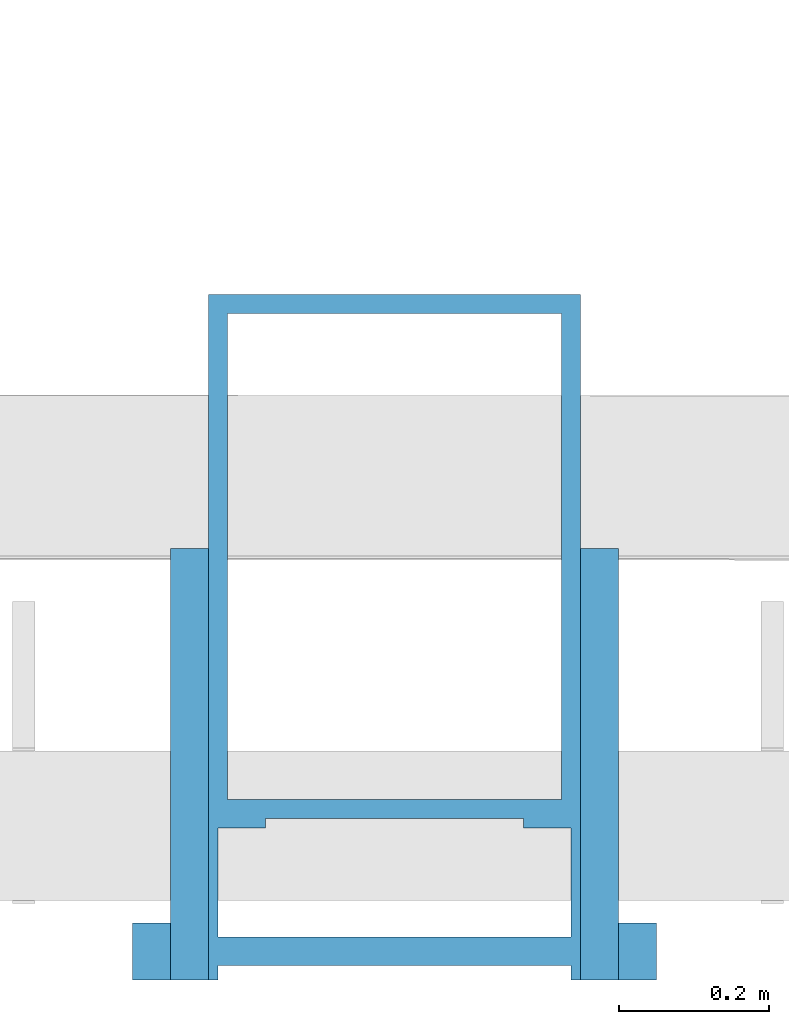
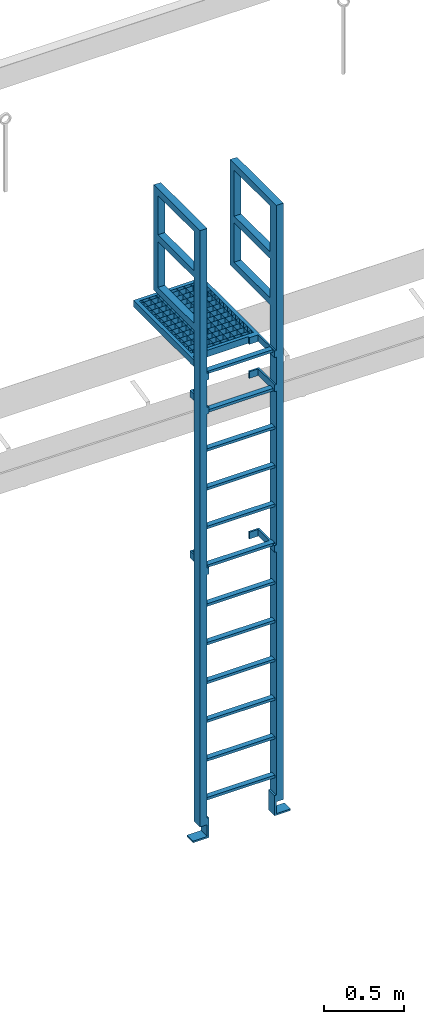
# One storey, part 4 of 7: 1 beam.
"""IFC4 building model written with IfcOpenShell, lengths in millimetres."""

from ifc_helpers import new_model, entity, si_unit, converted_unit, derived_unit, direction, frame, origin_with_axes, place, context, subcontext, project, spatial, polygons, type_object, element, save


model = new_model("IFC4")

# Units and contexts
model_context = context("Model", 3, precision=0.01, world=origin_with_axes(), true_north=direction((0.0, 1.0)))
body_context = subcontext(model_context, "Body", "Model", "MODEL_VIEW")
ifc_project = project(units=[si_unit("LENGTHUNIT", "METRE", prefix="MILLI"), si_unit("AREAUNIT", "SQUARE_METRE"), si_unit("VOLUMEUNIT", "CUBIC_METRE"), converted_unit("PLANEANGLEUNIT", "DEGREE", entity("IfcPlaneAngleMeasure", 0.0174532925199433), si_unit("PLANEANGLEUNIT", "RADIAN"), dimensions=[0, 0, 0, 0, 0, 0, 0]), converted_unit("TIMEUNIT", "Year", entity("IfcTimeMeasure", 31557600.0), si_unit("TIMEUNIT", "SECOND"), dimensions=[0, 0, 1, 0, 0, 0, 0]), si_unit("MASSUNIT", "GRAM", prefix="KILO"), si_unit("THERMODYNAMICTEMPERATUREUNIT", "DEGREE_CELSIUS"), si_unit("LUMINOUSINTENSITYUNIT", "LUMEN"), si_unit("ENERGYUNIT", "JOULE", prefix="MEGA"), derived_unit("THERMALCONDUCTANCEUNIT", [(si_unit("POWERUNIT", "WATT"), 1), (si_unit("LENGTHUNIT", "METRE"), -1), (si_unit("THERMODYNAMICTEMPERATUREUNIT", "KELVIN"), -1)]), derived_unit("SPECIFICHEATCAPACITYUNIT", [(si_unit("ENERGYUNIT", "JOULE"), 1), (si_unit("MASSUNIT", "GRAM", prefix="KILO"), -1), (si_unit("THERMODYNAMICTEMPERATUREUNIT", "KELVIN"), -1)]), derived_unit("MASSDENSITYUNIT", [(si_unit("MASSUNIT", "GRAM", prefix="KILO"), 1), (si_unit("VOLUMEUNIT", "CUBIC_METRE"), -1)])], contexts=[model_context])

# Site, building, storey
site_placement = place(None, origin_with_axes())
site = spatial("IfcSite", under=ifc_project, at=site_placement, Name="Exteriér", CompositionType="ELEMENT")
building_placement = place(site_placement, origin_with_axes())
building = spatial("IfcBuilding", under=site, at=building_placement, Name="Univerzitní lezecké centrum", CompositionType="ELEMENT")
storey_placement = place(building_placement, frame((0.0, 0.0, 12800.0), z_axis=(0.0, 0.0, 1.0), x_axis=(1.0, 0.0, 0.0)))
storey = spatial("IfcBuildingStorey", under=building, at=storey_placement, Name="Střecha", CompositionType="ELEMENT", Elevation=12800.0)

# Beam
beam_type = type_object("IfcBeamType", Name="Žebřík s klecí 24", PredefinedType="BEAM")
beam_placement = place(storey_placement, frame((5244.782240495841, -600.0000000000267, -3200.000000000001), z_axis=(0.0, 0.0, 1.0), x_axis=(1.0, 0.0, 0.0)))
element("IfcBeam", 1, at=beam_placement, inside=storey, type_object=beam_type, Name="ZV05", PredefinedType="BEAM", context=body_context, shape_type="Tessellation", body=[
    polygons([(-350.0, -139.7, 12.7), (-350.0, -139.7, 0.0), (-350.0, -215.9, 0.0), (-350.0, -215.9, 12.7), (-248.4, -139.7, 12.7), (-248.4, -139.7, 152.4), (-235.7, -139.7, 152.4), (-235.7, -139.7, 0.0), (-235.7, -215.9, 0.0), (-235.7, -215.9, 152.4), (-248.4, -215.9, 152.4), (-248.4, -215.9, 12.7)], [[[1, 2, 3, 4]], [[1, 5, 6, 7, 8, 2]], [[2, 8, 9, 3]], [[4, 3, 9, 10, 11, 12]], [[5, 1, 4, 12]], [[6, 5, 12, 11]], [[7, 6, 11, 10]], [[8, 7, 10, 9]]], closed=True),
    polygons([(350.0, -139.7, 12.7), (350.0, -215.9, 12.7), (350.0, -215.9, 0.0), (350.0, -139.7, 0.0), (248.4, -139.7, 12.7), (248.4, -215.9, 12.7), (248.4, -215.9, 152.4), (235.7, -215.9, 152.4), (235.7, -215.9, 0.0), (235.7, -139.7, 0.0), (235.7, -139.7, 152.4), (248.4, -139.7, 152.4)], [[[1, 2, 3, 4]], [[5, 6, 2, 1]], [[2, 6, 7, 8, 9, 3]], [[4, 3, 9, 10]], [[1, 4, 10, 11, 12, 5]], [[12, 7, 6, 5]], [[11, 8, 7, 12]], [[10, 9, 8, 11]]], closed=True),
    polygons([(248.4, -139.7, 3828.016178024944), (248.4, 360.3, 3828.016178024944), (299.2, 360.3, 3828.016178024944), (299.2, -139.7, 3828.016178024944), (248.4, -139.7, 3878.816178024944), (248.4, 309.5, 3878.816178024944), (248.4, 309.5000000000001, 4577.216178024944), (248.4, -139.6999999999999, 4577.216178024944), (248.4, -139.6999999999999, 4628.016178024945), (248.4, 360.3000000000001, 4628.016178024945), (299.2, 360.3000000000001, 4628.016178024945), (299.2, -139.6999999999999, 4628.016178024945), (299.2, -139.6999999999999, 4577.216178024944), (299.2, 309.5000000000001, 4577.216178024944), (299.2, 309.5, 3878.816178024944), (299.2, -139.7, 3878.816178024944)], [[[1, 2, 3, 4]], [[1, 5, 6, 7, 8, 9, 10, 2]], [[2, 10, 11, 3]], [[4, 3, 11, 12, 13, 14, 15, 16]], [[5, 1, 4, 16]], [[6, 5, 16, 15]], [[7, 6, 15, 14]], [[8, 7, 14, 13]], [[9, 8, 13, 12]], [[10, 9, 12, 11]]], closed=True),
    polygons([(248.4, 309.5, 4178.016178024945), (248.4, -139.7, 4178.016178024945), (248.4, -139.7, 4228.816178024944), (248.4, 309.5, 4228.816178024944), (299.2, 309.5, 4178.016178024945), (299.2, -139.7, 4178.016178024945), (299.2, -139.7, 4228.816178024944), (299.2, 309.5, 4228.816178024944)], [[[1, 2, 3, 4]], [[2, 1, 5, 6]], [[3, 2, 6, 7]], [[4, 3, 7, 8]], [[1, 4, 8, 5]], [[6, 5, 8, 7]]], closed=True),
    polygons([(-299.2, -139.6999999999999, 3828.016178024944), (-299.2, 360.3000000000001, 3828.016178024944), (-248.4, 360.3000000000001, 3828.016178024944), (-248.4, -139.6999999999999, 3828.016178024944), (-299.2, -139.6999999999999, 3878.816178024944), (-299.2, 309.5, 3878.816178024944), (-299.2, 309.5000000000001, 4577.216178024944), (-299.2, -139.6999999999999, 4577.216178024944), (-299.2, -139.6999999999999, 4628.016178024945), (-299.2, 360.3000000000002, 4628.016178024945), (-248.4, 360.3000000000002, 4628.016178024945), (-248.4, -139.6999999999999, 4628.016178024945), (-248.4, -139.6999999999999, 4577.216178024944), (-248.4, 309.5000000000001, 4577.216178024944), (-248.4, 309.5, 3878.816178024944), (-248.4, -139.6999999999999, 3878.816178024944)], [[[1, 2, 3, 4]], [[1, 5, 6, 7, 8, 9, 10, 2]], [[2, 10, 11, 3]], [[4, 3, 11, 12, 13, 14, 15, 16]], [[5, 1, 4, 16]], [[6, 5, 16, 15]], [[7, 6, 15, 14]], [[8, 7, 14, 13]], [[9, 8, 13, 12]], [[10, 9, 12, 11]]], closed=True),
    polygons([(-299.2, 309.5000000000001, 4228.016178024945), (-299.2, -139.6999999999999, 4228.016178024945), (-299.2, -139.6999999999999, 4278.816178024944), (-299.2, 309.5000000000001, 4278.816178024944), (-248.4, 309.5000000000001, 4228.016178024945), (-248.4, -139.6999999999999, 4228.016178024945), (-248.4, -139.6999999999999, 4278.816178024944), (-248.4, 309.5000000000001, 4278.816178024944)], [[[1, 2, 3, 4]], [[2, 1, 5, 6]], [[3, 2, 6, 7]], [[4, 3, 7, 8]], [[1, 4, 8, 5]], [[6, 5, 8, 7]]], closed=True),
    polygons([(-248.4, 0.0, 2000.0), (-248.4, -215.9, 2000.0), (-248.4, -215.9, 2050.8), (-248.4, 0.0, 2050.8), (-172.2, 0.0, 2000.0), (-172.2, -12.7, 2000.0), (-235.7, -12.7, 2000.0), (-235.7, -215.9, 2000.0), (-235.7, -215.9, 2050.8), (-235.7, -12.7, 2050.8), (-172.2, -12.7, 2050.8), (-172.2, 0.0, 2050.8)], [[[1, 2, 3, 4]], [[1, 5, 6, 7, 8, 2]], [[2, 8, 9, 3]], [[4, 3, 9, 10, 11, 12]], [[5, 1, 4, 12]], [[6, 5, 12, 11]], [[7, 6, 11, 10]], [[8, 7, 10, 9]]], closed=True),
    polygons([(248.4, 0.0, 2000.0), (248.4, 0.0, 2050.8), (248.4, -215.9, 2050.8), (248.4, -215.9, 2000.0), (172.2, 0.0, 2000.0), (172.2, 0.0, 2050.8), (172.2, -12.7, 2050.8), (235.7, -12.7, 2050.8), (235.7, -215.9, 2050.8), (235.7, -215.9, 2000.0), (235.7, -12.7, 2000.0), (172.2, -12.7, 2000.0)], [[[1, 2, 3, 4]], [[5, 6, 2, 1]], [[2, 6, 7, 8, 9, 3]], [[4, 3, 9, 10]], [[1, 4, 10, 11, 12, 5]], [[12, 7, 6, 5]], [[11, 8, 7, 12]], [[10, 9, 8, 11]]], closed=True),
    polygons([(-248.4, 0.0, 3219.2), (-248.4, -215.9, 3219.2), (-248.4, -215.9, 3270.0), (-248.4, 0.0, 3270.0), (-172.2, 0.0, 3219.2), (-172.2, -12.7, 3219.2), (-235.7, -12.7, 3219.2), (-235.7, -215.9, 3219.2), (-235.7, -215.9, 3270.0), (-235.7, -12.7, 3270.0), (-172.2, -12.7, 3270.0), (-172.2, 0.0, 3270.0)], [[[1, 2, 3, 4]], [[1, 5, 6, 7, 8, 2]], [[2, 8, 9, 3]], [[4, 3, 9, 10, 11, 12]], [[5, 1, 4, 12]], [[6, 5, 12, 11]], [[7, 6, 11, 10]], [[8, 7, 10, 9]]], closed=True),
    polygons([(248.4, 0.0, 3219.2), (248.4, 0.0, 3270.0), (248.4, -215.9, 3270.0), (248.4, -215.9, 3219.2), (172.2, 0.0, 3219.2), (172.2, 0.0, 3270.0), (172.2, -12.7, 3270.0), (235.7, -12.7, 3270.0), (235.7, -215.9, 3270.0), (235.7, -215.9, 3219.2), (235.7, -12.7, 3219.2), (172.2, -12.7, 3219.2)], [[[1, 2, 3, 4]], [[5, 6, 2, 1]], [[2, 6, 7, 8, 9, 3]], [[4, 3, 9, 10]], [[1, 4, 10, 11, 12, 5]], [[12, 7, 6, 5]], [[11, 8, 7, 12]], [[10, 9, 8, 11]]], closed=True),
    polygons([(-248.4, 0.0, 3477.216178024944), (-248.4, -215.9, 3477.216178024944), (-248.4, -215.9, 3528.016178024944), (-248.4, 0.0, 3528.016178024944), (-172.2, 0.0, 3477.216178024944), (-172.2, -12.7, 3477.216178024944), (-235.7, -12.7, 3477.216178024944), (-235.7, -215.9, 3477.216178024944), (-235.7, -215.9, 3528.016178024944), (-235.7, -12.7, 3528.016178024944), (-172.2, -12.7, 3528.016178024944), (-172.2, 0.0, 3528.016178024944)], [[[1, 2, 3, 4]], [[1, 5, 6, 7, 8, 2]], [[2, 8, 9, 3]], [[4, 3, 9, 10, 11, 12]], [[5, 1, 4, 12]], [[6, 5, 12, 11]], [[7, 6, 11, 10]], [[8, 7, 10, 9]]], closed=True),
    polygons([(248.4, 0.0, 3477.216178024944), (248.4, 0.0, 3528.016178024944), (248.4, -215.9, 3528.016178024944), (248.4, -215.9, 3477.216178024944), (172.2, 0.0, 3477.216178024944), (172.2, 0.0, 3528.016178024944), (172.2, -12.7, 3528.016178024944), (235.7, -12.7, 3528.016178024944), (235.7, -215.9, 3528.016178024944), (235.7, -215.9, 3477.216178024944), (235.7, -12.7, 3477.216178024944), (172.2, -12.7, 3477.216178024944)], [[[1, 2, 3, 4]], [[5, 6, 2, 1]], [[2, 6, 7, 8, 9, 3]], [[4, 3, 9, 10]], [[1, 4, 10, 11, 12, 5]], [[12, 7, 6, 5]], [[11, 8, 7, 12]], [[10, 9, 8, 11]]], closed=True),
    polygons([(-248.4, 0.0, 3478.016178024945), (248.4, 0.0, 3478.016178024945), (248.4, 0.0, 3528.016178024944), (-248.4, 0.0, 3528.016178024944), (-248.4, 700.0, 3478.016178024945), (248.4, 700.0, 3478.016178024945), (-223.0, 25.4, 3478.016178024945), (223.0, 25.4, 3478.016178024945), (223.0, 674.6, 3478.016178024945), (-223.0, 674.6, 3478.016178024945), (248.4, 700.0, 3528.016178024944), (-248.4, 700.0, 3528.016178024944), (-223.0, 25.4, 3528.016178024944), (-223.0, 674.6, 3528.016178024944), (223.0, 674.6, 3528.016178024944), (223.0, 25.4, 3528.016178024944)], [[[1, 2, 3, 4]], [[1, 5, 6, 2], [7, 8, 9, 10]], [[2, 6, 11, 3]], [[4, 3, 11, 12], [13, 14, 15, 16]], [[5, 1, 4, 12]], [[6, 5, 12, 11]], [[8, 7, 13, 16]], [[9, 8, 16, 15]], [[10, 9, 15, 14]], [[7, 10, 14, 13]]], closed=True),
    polygons([(-223.0, 50.0, 3528.016178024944), (-223.0, 50.0, 3478.016178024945), (223.0, 50.0, 3478.016178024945), (223.0, 50.0, 3528.016178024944)], [[[1, 2, 3, 4]]], closed=False),
    polygons([(-223.0, 100.0, 3528.016178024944), (-223.0, 100.0, 3478.016178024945), (223.0, 100.0, 3478.016178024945), (223.0, 100.0, 3528.016178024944)], [[[1, 2, 3, 4]]], closed=False),
    polygons([(-223.0, 150.0, 3528.016178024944), (-223.0, 150.0, 3478.016178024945), (223.0, 150.0, 3478.016178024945), (223.0, 150.0, 3528.016178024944)], [[[1, 2, 3, 4]]], closed=False),
    polygons([(-223.0, 200.0, 3528.016178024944), (-223.0, 200.0, 3478.016178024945), (223.0, 200.0, 3478.016178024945), (223.0, 200.0, 3528.016178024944)], [[[1, 2, 3, 4]]], closed=False),
    polygons([(-223.0, 250.0, 3528.016178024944), (-223.0, 250.0, 3478.016178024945), (223.0, 250.0, 3478.016178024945), (223.0, 250.0, 3528.016178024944)], [[[1, 2, 3, 4]]], closed=False),
    polygons([(-223.0, 300.0000000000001, 3528.016178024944), (-223.0, 300.0000000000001, 3478.016178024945), (223.0, 300.0000000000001, 3478.016178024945), (223.0, 300.0000000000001, 3528.016178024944)], [[[1, 2, 3, 4]]], closed=False),
    polygons([(-223.0, 350.0000000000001, 3528.016178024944), (-223.0, 350.0000000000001, 3478.016178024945), (223.0, 350.0000000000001, 3478.016178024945), (223.0, 350.0000000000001, 3528.016178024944)], [[[1, 2, 3, 4]]], closed=False),
    polygons([(-223.0, 400.0, 3528.016178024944), (-223.0, 400.0, 3478.016178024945), (223.0, 400.0, 3478.016178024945), (223.0, 400.0, 3528.016178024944)], [[[1, 2, 3, 4]]], closed=False),
    polygons([(-223.0, 450.0, 3528.016178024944), (-223.0, 450.0, 3478.016178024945), (223.0, 450.0, 3478.016178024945), (223.0, 450.0, 3528.016178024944)], [[[1, 2, 3, 4]]], closed=False),
    polygons([(-223.0, 500.0, 3528.016178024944), (-223.0, 500.0, 3478.016178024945), (223.0, 500.0, 3478.016178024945), (223.0, 500.0, 3528.016178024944)], [[[1, 2, 3, 4]]], closed=False),
    polygons([(-223.0, 550.0, 3528.016178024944), (-223.0, 550.0, 3478.016178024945), (223.0, 550.0, 3478.016178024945), (223.0, 550.0, 3528.016178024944)], [[[1, 2, 3, 4]]], closed=False),
    polygons([(-223.0, 600.0000000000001, 3528.016178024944), (-223.0, 600.0000000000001, 3478.016178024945), (223.0, 600.0000000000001, 3478.016178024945), (223.0, 600.0000000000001, 3528.016178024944)], [[[1, 2, 3, 4]]], closed=False),
    polygons([(-223.0, 650.0, 3528.016178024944), (-223.0, 650.0, 3478.016178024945), (223.0, 650.0, 3478.016178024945), (223.0, 650.0, 3528.016178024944)], [[[1, 2, 3, 4]]], closed=False),
    polygons([(198.4, 25.39999999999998, 3528.016178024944), (198.4, 25.39999999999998, 3478.016178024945), (198.4, 674.6, 3478.016178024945), (198.4, 674.6, 3528.016178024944)], [[[1, 2, 3, 4]]], closed=False),
    polygons([(148.4, 25.39999999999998, 3528.016178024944), (148.4, 25.39999999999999, 3478.016178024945), (148.4, 674.6, 3478.016178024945), (148.4, 674.6, 3528.016178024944)], [[[1, 2, 3, 4]]], closed=False),
    polygons([(98.39999999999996, 25.39999999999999, 3528.016178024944), (98.39999999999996, 25.39999999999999, 3478.016178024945), (98.4, 674.6, 3478.016178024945), (98.4, 674.6, 3528.016178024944)], [[[1, 2, 3, 4]]], closed=False),
    polygons([(48.39999999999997, 25.39999999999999, 3528.016178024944), (48.39999999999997, 25.4, 3478.016178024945), (48.40000000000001, 674.6, 3478.016178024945), (48.40000000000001, 674.6, 3528.016178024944)], [[[1, 2, 3, 4]]], closed=False),
    polygons([(-1.600000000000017, 25.4, 3528.016178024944), (-1.600000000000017, 25.4, 3478.016178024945), (-1.599999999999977, 674.6, 3478.016178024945), (-1.599999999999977, 674.6, 3528.016178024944)], [[[1, 2, 3, 4]]], closed=False),
    polygons([(-51.60000000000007, 25.4, 3528.016178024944), (-51.60000000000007, 25.4, 3478.016178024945), (-51.60000000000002, 674.6, 3478.016178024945), (-51.60000000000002, 674.6, 3528.016178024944)], [[[1, 2, 3, 4]]], closed=False),
    polygons([(-101.6000000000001, 25.4, 3528.016178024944), (-101.6000000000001, 25.40000000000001, 3478.016178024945), (-101.6, 674.6, 3478.016178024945), (-101.6, 674.6, 3528.016178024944)], [[[1, 2, 3, 4]]], closed=False),
    polygons([(-151.6000000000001, 25.40000000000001, 3528.016178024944), (-151.6000000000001, 25.40000000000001, 3478.016178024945), (-151.6, 674.6, 3478.016178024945), (-151.6, 674.6, 3528.016178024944)], [[[1, 2, 3, 4]]], closed=False),
    polygons([(-201.6, 25.40000000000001, 3528.016178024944), (-201.6, 25.40000000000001, 3478.016178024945), (-201.6, 674.6, 3478.016178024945), (-201.6, 674.6, 3528.016178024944)], [[[1, 2, 3, 4]]], closed=False),
    polygons([(248.4, -215.9, 101.6), (299.2, -215.9, 101.6), (299.2, -215.9, 4628.016178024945), (248.4, -215.9, 4628.016178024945), (248.4, -139.7, 101.6), (299.2, -139.7, 101.6), (299.2, -139.7, 4628.016178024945), (248.4, -139.7, 4628.016178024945)], [[[1, 2, 3, 4]], [[1, 5, 6, 2]], [[2, 6, 7, 3]], [[4, 3, 7, 8]], [[5, 1, 4, 8]], [[6, 5, 8, 7]]], closed=True),
    polygons([(-248.4, -139.7, 101.6), (-299.2, -139.7, 101.6), (-299.2, -139.7, 4628.016178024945), (-248.4, -139.7, 4628.016178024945), (-248.4, -215.9, 101.6), (-299.2, -215.9, 101.6), (-299.2, -215.9, 4628.016178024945), (-248.4, -215.9, 4628.016178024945)], [[[1, 2, 3, 4]], [[1, 5, 6, 2]], [[2, 6, 7, 3]], [[4, 3, 7, 8]], [[5, 1, 4, 8]], [[6, 5, 8, 7]]], closed=True),
    polygons([(248.4, -196.85, 273.0013481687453), (-248.4, -196.85, 273.0013481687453), (-248.4, -158.75, 273.0013481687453), (248.4, -158.75, 273.0013481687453), (248.4, -196.85, 293.0013481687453), (-248.4, -196.85, 293.0013481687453), (-248.4, -158.75, 293.0013481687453), (248.4, -158.75, 293.0013481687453)], [[[1, 2, 3, 4]], [[2, 1, 5, 6]], [[3, 2, 6, 7]], [[4, 3, 7, 8]], [[1, 4, 8, 5]], [[6, 5, 8, 7]]], closed=True),
    polygons([(248.4, -196.85, 567.0026963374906), (-248.4, -196.85, 567.0026963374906), (-248.4, -158.75, 567.0026963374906), (248.4, -158.75, 567.0026963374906), (248.4, -196.85, 587.0026963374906), (-248.4, -196.85, 587.0026963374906), (-248.4, -158.75, 587.0026963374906), (248.4, -158.75, 587.0026963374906)], [[[1, 2, 3, 4]], [[2, 1, 5, 6]], [[3, 2, 6, 7]], [[4, 3, 7, 8]], [[1, 4, 8, 5]], [[6, 5, 8, 7]]], closed=True),
    polygons([(248.4, -196.85, 861.004044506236), (-248.4, -196.85, 861.004044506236), (-248.4, -158.75, 861.004044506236), (248.4, -158.75, 861.004044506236), (248.4, -196.85, 881.004044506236), (-248.4, -196.85, 881.004044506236), (-248.4, -158.75, 881.004044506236), (248.4, -158.75, 881.004044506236)], [[[1, 2, 3, 4]], [[2, 1, 5, 6]], [[3, 2, 6, 7]], [[4, 3, 7, 8]], [[1, 4, 8, 5]], [[6, 5, 8, 7]]], closed=True),
    polygons([(248.4, -196.85, 1155.005392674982), (-248.4, -196.85, 1155.005392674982), (-248.4, -158.75, 1155.005392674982), (248.4, -158.75, 1155.005392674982), (248.4, -196.85, 1175.005392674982), (-248.4, -196.85, 1175.005392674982), (-248.4, -158.75, 1175.005392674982), (248.4, -158.75, 1175.005392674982)], [[[1, 2, 3, 4]], [[2, 1, 5, 6]], [[3, 2, 6, 7]], [[4, 3, 7, 8]], [[1, 4, 8, 5]], [[6, 5, 8, 7]]], closed=True),
    polygons([(248.4, -196.85, 1449.006740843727), (-248.4, -196.85, 1449.006740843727), (-248.4, -158.75, 1449.006740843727), (248.4, -158.75, 1449.006740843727), (248.4, -196.85, 1469.006740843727), (-248.4, -196.85, 1469.006740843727), (-248.4, -158.75, 1469.006740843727), (248.4, -158.75, 1469.006740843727)], [[[1, 2, 3, 4]], [[2, 1, 5, 6]], [[3, 2, 6, 7]], [[4, 3, 7, 8]], [[1, 4, 8, 5]], [[6, 5, 8, 7]]], closed=True),
    polygons([(248.4, -196.85, 1743.008089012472), (-248.4, -196.85, 1743.008089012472), (-248.4, -158.75, 1743.008089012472), (248.4, -158.75, 1743.008089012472), (248.4, -196.85, 1763.008089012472), (-248.4, -196.85, 1763.008089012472), (-248.4, -158.75, 1763.008089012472), (248.4, -158.75, 1763.008089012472)], [[[1, 2, 3, 4]], [[2, 1, 5, 6]], [[3, 2, 6, 7]], [[4, 3, 7, 8]], [[1, 4, 8, 5]], [[6, 5, 8, 7]]], closed=True),
    polygons([(248.4, -196.85, 2037.009437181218), (-248.4, -196.85, 2037.009437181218), (-248.4, -158.75, 2037.009437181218), (248.4, -158.75, 2037.009437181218), (248.4, -196.85, 2057.009437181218), (-248.4, -196.85, 2057.009437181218), (-248.4, -158.75, 2057.009437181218), (248.4, -158.75, 2057.009437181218)], [[[1, 2, 3, 4]], [[2, 1, 5, 6]], [[3, 2, 6, 7]], [[4, 3, 7, 8]], [[1, 4, 8, 5]], [[6, 5, 8, 7]]], closed=True),
    polygons([(248.4, -196.85, 2331.010785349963), (-248.4, -196.85, 2331.010785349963), (-248.4, -158.75, 2331.010785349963), (248.4, -158.75, 2331.010785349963), (248.4, -196.85, 2351.010785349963), (-248.4, -196.85, 2351.010785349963), (-248.4, -158.75, 2351.010785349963), (248.4, -158.75, 2351.010785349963)], [[[1, 2, 3, 4]], [[2, 1, 5, 6]], [[3, 2, 6, 7]], [[4, 3, 7, 8]], [[1, 4, 8, 5]], [[6, 5, 8, 7]]], closed=True),
    polygons([(248.4, -196.85, 2625.012133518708), (-248.4, -196.85, 2625.012133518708), (-248.4, -158.75, 2625.012133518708), (248.4, -158.75, 2625.012133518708), (248.4, -196.85, 2645.012133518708), (-248.4, -196.85, 2645.012133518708), (-248.4, -158.75, 2645.012133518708), (248.4, -158.75, 2645.012133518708)], [[[1, 2, 3, 4]], [[2, 1, 5, 6]], [[3, 2, 6, 7]], [[4, 3, 7, 8]], [[1, 4, 8, 5]], [[6, 5, 8, 7]]], closed=True),
    polygons([(248.4, -196.85, 2919.013481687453), (-248.4, -196.85, 2919.013481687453), (-248.4, -158.75, 2919.013481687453), (248.4, -158.75, 2919.013481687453), (248.4, -196.85, 2939.013481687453), (-248.4, -196.85, 2939.013481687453), (-248.4, -158.75, 2939.013481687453), (248.4, -158.75, 2939.013481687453)], [[[1, 2, 3, 4]], [[2, 1, 5, 6]], [[3, 2, 6, 7]], [[4, 3, 7, 8]], [[1, 4, 8, 5]], [[6, 5, 8, 7]]], closed=True),
    polygons([(248.4, -196.85, 3213.014829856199), (-248.4, -196.85, 3213.014829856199), (-248.4, -158.75, 3213.014829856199), (248.4, -158.75, 3213.014829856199), (248.4, -196.85, 3233.014829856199), (-248.4, -196.85, 3233.014829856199), (-248.4, -158.75, 3233.014829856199), (248.4, -158.75, 3233.014829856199)], [[[1, 2, 3, 4]], [[2, 1, 5, 6]], [[3, 2, 6, 7]], [[4, 3, 7, 8]], [[1, 4, 8, 5]], [[6, 5, 8, 7]]], closed=True),
    polygons([(248.4, -196.85, 3507.016178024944), (-248.4, -196.85, 3507.016178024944), (-248.4, -158.75, 3507.016178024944), (248.4, -158.75, 3507.016178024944), (248.4, -196.85, 3527.016178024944), (-248.4, -196.85, 3527.016178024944), (-248.4, -158.75, 3527.016178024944), (248.4, -158.75, 3527.016178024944)], [[[1, 2, 3, 4]], [[2, 1, 5, 6]], [[3, 2, 6, 7]], [[4, 3, 7, 8]], [[1, 4, 8, 5]], [[6, 5, 8, 7]]], closed=True),
])

save(model, "model.ifc")
